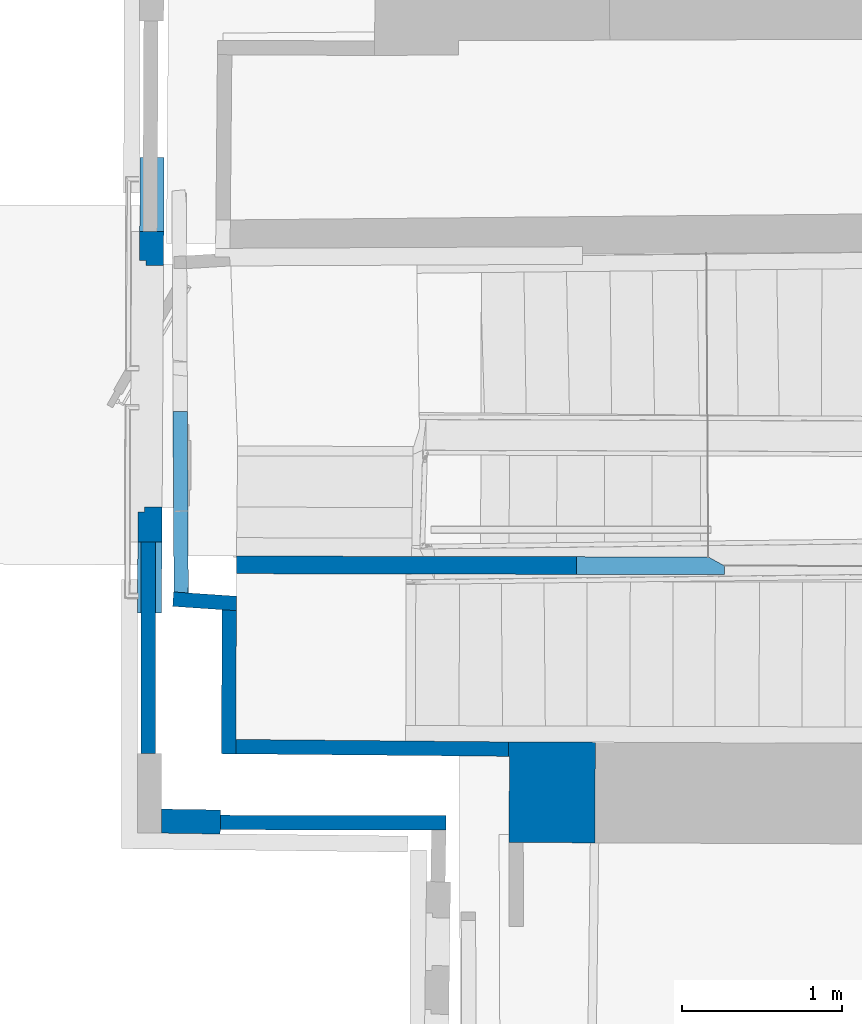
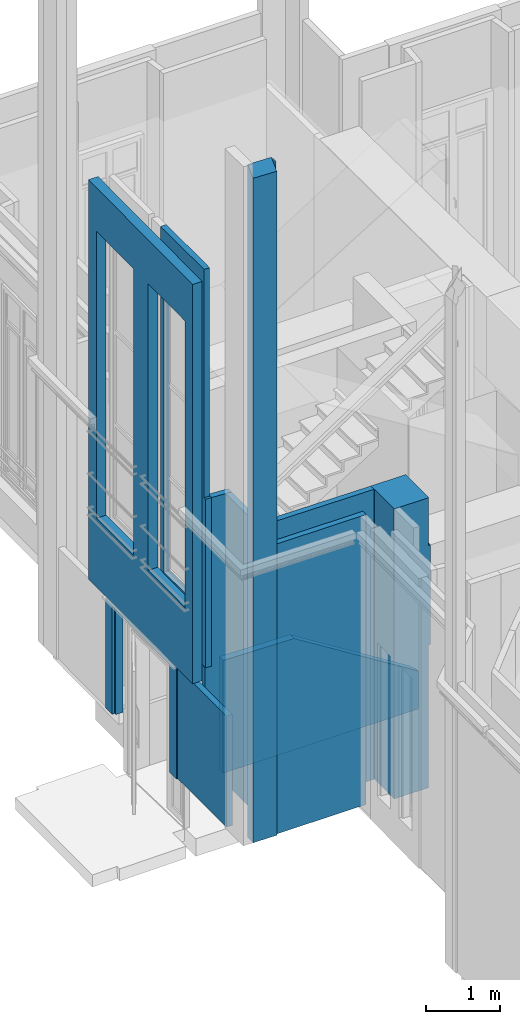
# One storey, part 9 of 97: 11 walls, 4 openings.
"""IFC2X3 building model written with IfcOpenShell, lengths in centimetres."""

import ifcopenshell
import ifcopenshell.guid

model = None  # the IFC model being written
_history = None  # IfcOwnerHistory: only IFC2X3 demands one
_inside = {}  # id of a spatial element -> (the spatial element, [elements in it])
_under = {}  # id of a project, library or spatial element -> (it, [spatial elements below it])
_declared = {}  # id of a project -> (the project, [libraries it declares])
_typed = {}  # id of a type object -> (the type object, [elements of that type])
_made_of = {}  # id of a material, layer set ... -> (it, [elements and type objects made of it])


def new_model(schema):
    """Start an empty IFC model of exactly this schema.

    Asked for "IFC4X3", IfcOpenShell would pick the latest addendum, in which some entities
    have other attributes; the version numbers below select the first issue.
    IFC2X3 requires an IfcOwnerHistory on every rooted entity: one is made here for all.
    """
    global model, _history
    if schema == "IFC4X3":
        model = ifcopenshell.file(schema_version=(4, 3, 0, 0))
    else:
        model = ifcopenshell.file(schema=schema)
    _inside.clear()
    _under.clear()
    _declared.clear()
    _typed.clear()
    _made_of.clear()
    _history = None
    if model.schema == "IFC2X3":
        org = make("IfcOrganization", Name="unknown")
        user = make(
            "IfcPersonAndOrganization",
            ThePerson=make("IfcPerson", FamilyName="unknown"),
            TheOrganization=org,
        )
        app = make(
            "IfcApplication",
            ApplicationDeveloper=org,
            Version="unknown",
            ApplicationFullName="unknown",
            ApplicationIdentifier="unknown",
        )
        _history = make(
            "IfcOwnerHistory",
            OwningUser=user,
            OwningApplication=app,
            ChangeAction="ADDED",
            CreationDate=0,
        )
    return model


def make(cls, **values):
    """One entity of the class cls with the attributes given. An attribute that is None is left unset."""
    return model.create_entity(
        cls, **{name: value for name, value in values.items() if value is not None}
    )


def entity(cls, *values):
    """Any entity or typed value of the class cls, its attributes in the order of the schema. None: left unset."""
    e = model.create_entity(cls)
    for i, value in enumerate(values):
        if value is not None:
            e[i] = value
    return e


def rooted(cls, **values):
    """An entity with a GlobalId (a new one), such as an element, a storey or a relation."""
    return make(cls, GlobalId=ifcopenshell.guid.new(), OwnerHistory=_history, **values)


def si_unit(unit_type, name, prefix=None):
    """IfcSIUnit, for example si_unit("LENGTHUNIT", "METRE", prefix="MILLI")."""
    return make("IfcSIUnit", UnitType=unit_type, Prefix=prefix, Name=name)


def converted_unit(unit_type, name, factor, base, dimensions=None, offset=None):
    """IfcConversionBasedUnit, such as the inch: factor (a typed value) times the base unit."""
    return make(
        "IfcConversionBasedUnit"
        if offset is None
        else "IfcConversionBasedUnitWithOffset",
        ConversionOffset=offset,
        Dimensions=None
        if dimensions is None
        else entity("IfcDimensionalExponents", *dimensions),
        UnitType=unit_type,
        Name=name,
        ConversionFactor=make(
            "IfcMeasureWithUnit", ValueComponent=factor, UnitComponent=base
        ),
    )


def assignment(units):
    """IfcUnitAssignment: the units of a project."""
    return None if units is None else make("IfcUnitAssignment", Units=units)


def point(xyz):
    """IfcCartesianPoint."""
    return None if xyz is None else make("IfcCartesianPoint", Coordinates=xyz)


def direction(xyz):
    """IfcDirection."""
    return None if xyz is None else make("IfcDirection", DirectionRatios=xyz)


def frame(location, z_axis=None, x_axis=None):
    """IfcAxis2Placement3D, a coordinate frame: its origin and axes. An axis left out is left unset."""
    return make(
        "IfcAxis2Placement3D",
        Location=point(location),
        Axis=direction(z_axis),
        RefDirection=direction(x_axis),
    )


def frame_2d(location, x_axis=None):
    """IfcAxis2Placement2D, a coordinate frame in the plane: its origin and x axis."""
    return make(
        "IfcAxis2Placement2D", Location=point(location), RefDirection=direction(x_axis)
    )


def origin():
    """The frame at (0, 0, 0) with its axes left unset."""
    return frame((0.0, 0.0, 0.0))


def origin_with_axes():
    """The frame at (0, 0, 0) with the z axis (0, 0, 1) and the x axis (1, 0, 0) written out."""
    return frame((0.0, 0.0, 0.0), z_axis=(0.0, 0.0, 1.0), x_axis=(1.0, 0.0, 0.0))


def origin_2d_with_axis():
    """The frame at (0, 0) in the plane with the x axis (1, 0) written out."""
    return frame_2d((0.0, 0.0), x_axis=(1.0, 0.0))


def place(relative_to, where):
    """IfcLocalPlacement: puts the frame where relative to a parent placement (None: the world)."""
    return make(
        "IfcLocalPlacement", PlacementRelTo=relative_to, RelativePlacement=where
    )


def context(
    kind, dimensions, precision=None, world=None, true_north=None, identifier=None
):
    """IfcGeometricRepresentationContext, for example the 3D "Model" context."""
    return make(
        "IfcGeometricRepresentationContext",
        ContextIdentifier=identifier,
        ContextType=kind,
        CoordinateSpaceDimension=dimensions,
        Precision=precision,
        WorldCoordinateSystem=world,
        TrueNorth=true_north,
    )


def subcontext(parent, identifier, kind, view, scale=None):
    """IfcGeometricRepresentationSubContext, for example "Body" below "Model"."""
    return make(
        "IfcGeometricRepresentationSubContext",
        ContextIdentifier=identifier,
        ContextType=kind,
        ParentContext=parent,
        TargetScale=scale,
        TargetView=view,
    )


def project(units=None, contexts=None):
    """IfcProject with its units and contexts."""
    return rooted(
        "IfcProject",
        Name="project",
        RepresentationContexts=contexts,
        UnitsInContext=assignment(units),
    )


def spatial(cls, under=None, at=None, **own):
    """A site, building, storey or space (cls), placed at a placement, below another one or the project."""
    s = rooted(cls, ObjectPlacement=at, **own)
    if under is not None:
        _under.setdefault(under.id(), (under, []))[1].append(s)
    return s


def polyline(points):
    """IfcPolyline through the points."""
    return make("IfcPolyline", Points=[point(p) for p in points])


def profile(cls, at=None, kind="AREA", **sizes):
    """A parametric profile (cls). Its sizes go by their IFC names, for example OverallWidth=200.0."""
    return make(cls, ProfileType=kind, Position=at, **sizes)


def rectangle(**sizes):
    """IfcRectangleProfileDef."""
    return profile("IfcRectangleProfileDef", **sizes)


def outline(outer, holes=None, kind="AREA"):
    """IfcArbitraryClosedProfileDef: a profile drawn as a closed curve; with holes, ...WithVoids."""
    if holes is None:
        return make("IfcArbitraryClosedProfileDef", ProfileType=kind, OuterCurve=outer)
    return make(
        "IfcArbitraryProfileDefWithVoids",
        ProfileType=kind,
        OuterCurve=outer,
        InnerCurves=holes,
    )


def extrude(swept, where, along, depth):
    """IfcExtrudedAreaSolid: the profile swept, set in the frame where, extruded along a direction by depth."""
    return make(
        "IfcExtrudedAreaSolid",
        SweptArea=swept,
        Position=where,
        ExtrudedDirection=direction(along),
        Depth=depth,
    )


def clip(a, b, op="DIFFERENCE"):
    """IfcBooleanClippingResult: the solid a cut by the half space b."""
    return make(
        "IfcBooleanClippingResult", Operator=op, FirstOperand=a, SecondOperand=b
    )


def bounded_halfspace(plane, agree, where, boundary):
    """IfcPolygonalBoundedHalfSpace: a half space limited to a polygon's prism."""
    return make(
        "IfcPolygonalBoundedHalfSpace",
        BaseSurface=make("IfcPlane", Position=plane),
        AgreementFlag=agree,
        Position=where,
        PolygonalBoundary=boundary,
    )


def faces_of(points, faces, orient=None, outer=None):
    """IfcFace entities. A face is a list of loops; a loop is a list of indices into points, from 0.

    orient and outer hold one flag for each loop. By default every Orientation is true, the
    first loop of a face is its IfcFaceOuterBound and the others are IfcFaceBound.
    """
    made = []
    for i, loops in enumerate(faces):
        bounds = []
        for j, loop in enumerate(loops):
            is_outer = j == 0 if outer is None else outer[i][j]
            bounds.append(
                make(
                    "IfcFaceOuterBound" if is_outer else "IfcFaceBound",
                    Bound=make("IfcPolyLoop", Polygon=[points[k] for k in loop]),
                    Orientation=True if orient is None else orient[i][j],
                )
            )
        made.append(make("IfcFace", Bounds=bounds))
    return made


def faceted_brep(points, faces, orient=None, outer=None, voids=None):
    """IfcFacetedBrep: a solid bounded by flat faces; with voids (closed shells), ...WithVoids."""
    shared = [point(p) for p in points]
    hull = make("IfcClosedShell", CfsFaces=faces_of(shared, faces, orient, outer))
    if voids is None:
        return make("IfcFacetedBrep", Outer=hull)
    return make(
        "IfcFacetedBrepWithVoids",
        Outer=hull,
        Voids=[
            make(cls, CfsFaces=faces_of(shared, fs, o, b)) for cls, fs, o, b in voids
        ],
    )


def shape(context_of_items, identifier, shape_type, items):
    """IfcShapeRepresentation: the items that make up one representation, for example the "Body"."""
    return make(
        "IfcShapeRepresentation",
        ContextOfItems=context_of_items,
        RepresentationIdentifier=identifier,
        RepresentationType=shape_type,
        Items=items,
    )


def material(Name=None, Category=None):
    """IfcMaterial."""
    return make("IfcMaterial", Name=Name, Category=Category)


def layer(
    of_material, thickness, ventilated=None, Name=None, Category=None, Priority=None
):
    """IfcMaterialLayer: one layer of a wall or slab, of a material (None: an air gap)."""
    return make(
        "IfcMaterialLayer",
        Material=of_material,
        LayerThickness=thickness,
        IsVentilated=ventilated,
        Name=Name,
        Category=Category,
        Priority=Priority,
    )


def layer_set(layers, Name=None):
    """IfcMaterialLayerSet."""
    return make("IfcMaterialLayerSet", MaterialLayers=layers, LayerSetName=Name)


def layer_usage(for_layer_set, set_direction, sense, offset, extent=None):
    """IfcMaterialLayerSetUsage: how a layer set lies in its element."""
    return make(
        "IfcMaterialLayerSetUsage",
        ForLayerSet=for_layer_set,
        LayerSetDirection=set_direction,
        DirectionSense=sense,
        OffsetFromReferenceLine=offset,
        ReferenceExtent=extent,
    )


def made_of(thing, what):
    """Note that an element or type object is made of a material, layer set ...; save() writes the relation."""
    if what is not None:
        _made_of.setdefault(what.id(), (what, []))[1].append(thing)
    return thing


def type_object(cls, material=None, **own):
    """A type object (cls), such as IfcWallType, which elements share."""
    return made_of(rooted(cls, **own), material)


def element(
    cls,
    number,
    at=None,
    inside=None,
    cuts=None,
    type_object=None,
    material=None,
    context=None,
    identifier="Body",
    shape_type=None,
    held_by="IfcProductDefinitionShape",
    body=None,
    shapes=None,
    **own,
):
    """One element of the class cls, such as IfcWall. Its Tag is "e" and its number.

    at: its placement. inside: the storey or other place that contains it. cuts: it is an
    opening in that element (IfcRelVoidsElement). A single representation is given by context,
    identifier, shape_type and body (its items); several are given by shapes. held_by: the class
    of the entity that holds the representations. save() writes the other relations.
    """
    e = rooted(cls, Tag="e%d" % number, ObjectPlacement=at, **own)
    if body is not None:
        shapes = [shape(context, identifier, shape_type, body)]
    if shapes is not None:
        e.Representation = make(held_by, Representations=shapes)
    if inside is not None:
        _inside.setdefault(inside.id(), (inside, []))[1].append(e)
    if cuts is not None:
        rooted(
            "IfcRelVoidsElement", RelatingBuildingElement=cuts, RelatedOpeningElement=e
        )
    if type_object is not None:
        _typed.setdefault(type_object.id(), (type_object, []))[1].append(e)
    return made_of(e, material)


def aggregate(whole, parts):
    """IfcRelAggregates: a whole, such as a stair, and the parts it consists of."""
    return rooted("IfcRelAggregates", RelatingObject=whole, RelatedObjects=parts)


def save(model, path):
    """Write the relations noted so far, then the file.

    IfcRelAggregates (storeys below a building ...), IfcRelContainedInSpatialStructure (elements
    in a storey), IfcRelDefinesByType, IfcRelAssociatesMaterial and IfcRelDeclares: one each for
    every whole, place, type object, material and project.
    """
    for whole, parts in _under.values():
        aggregate(whole, parts)
    for where, things in _inside.values():
        rooted(
            "IfcRelContainedInSpatialStructure",
            RelatedElements=things,
            RelatingStructure=where,
        )
    for kind, things in _typed.values():
        rooted("IfcRelDefinesByType", RelatedObjects=things, RelatingType=kind)
    for what, things in _made_of.values():
        rooted("IfcRelAssociatesMaterial", RelatedObjects=things, RelatingMaterial=what)
    for by, libraries in _declared.values():
        rooted("IfcRelDeclares", RelatingContext=by, RelatedDefinitions=libraries)
    model.write(path)


model = new_model("IFC2X3")

# Units and contexts
model_context = context("Model", 3, precision=0.0001, world=origin(), true_north=direction((0.225632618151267, 0.974212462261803, 0.0)))
body_context = subcontext(model_context, "Body", "Model", "MODEL_VIEW")
footprint_context = subcontext(model_context, "FootPrint", "Model", "MODEL_VIEW")
profile_context = subcontext(model_context, "Profile", "Model", "MODEL_VIEW")
ifc_project = project(units=[si_unit("LENGTHUNIT", "METRE", prefix="CENTI"), si_unit("AREAUNIT", "SQUARE_METRE", prefix="CENTI"), si_unit("VOLUMEUNIT", "CUBIC_METRE", prefix="CENTI"), converted_unit("PLANEANGLEUNIT", "DEGREE", entity("IfcRatioMeasure", 0.0174532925), si_unit("PLANEANGLEUNIT", "RADIAN"), dimensions=[0, 0, 0, 0, 0, 0, 0])], contexts=[model_context])

# Site, building, storey
site_placement = place(None, origin_with_axes())
site = spatial("IfcSite", under=ifc_project, at=site_placement, Name="Default Site", CompositionType="ELEMENT")
building_placement = place(site_placement, origin_with_axes())
building = spatial("IfcBuilding", under=site, at=building_placement, Name="Default Building", CompositionType="ELEMENT")
storey_placement = place(building_placement, origin_with_axes())
storey = spatial("IfcBuildingStorey", under=building, at=storey_placement, Name="Rez-de-chaussée", CompositionType="ELEMENT", Elevation=0.0)

# Walls
ifc_material = material(Name="<aucun>")
ifc_layer_1 = layer(ifc_material, 9.0)
ifc_layer_set_1 = layer_set([ifc_layer_1], Name="default")
ifc_layer_usage_1 = layer_usage(ifc_layer_set_1, "AXIS2", "POSITIVE", -4.5)
wall_type_1 = type_object("IfcWallType", Name="default 90", PredefinedType="NOTDEFINED", material=ifc_layer_set_1)
wall_1_placement = place(storey_placement, frame((-1178.55220643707, -336.633022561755, 0.0128503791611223), z_axis=(0.0, 0.0, 1.0), x_axis=(-0.999998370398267, 0.0018053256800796, 0.0)))
element("IfcWallStandardCase", 1, at=wall_1_placement, inside=storey, type_object=wall_type_1, material=ifc_layer_usage_1, Name="Enveloppe 372645", context=body_context, shape_type="SweptSolid", body=[
    extrude(outline(polyline([(131.729349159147, 4.50000000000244), (-8.99828884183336, 4.49999999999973), (-9.12939340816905, -4.50000000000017), (131.611219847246, -4.49999999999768), (131.729349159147, 4.50000000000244)])), frame((0.0, 0.0, 5.42101086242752e-18), z_axis=(0.0, 0.0, 1.0), x_axis=(1.0, 0.0, 0.0)), (0.0, 0.0, 1.0), 477.795358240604),
])
ifc_layer_usage_2 = layer_usage(ifc_layer_set_1, "AXIS2", "POSITIVE", -4.5)
wall_2_placement = place(storey_placement, frame((-1300.58186703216, -199.830365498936, 0.0128503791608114), z_axis=(0.0, 0.0, 1.0), x_axis=(-0.997724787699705, 0.0674184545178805, 0.0)))
element("IfcWallStandardCase", 2, at=wall_2_placement, inside=storey, type_object=wall_type_1, material=ifc_layer_usage_2, Name="Enveloppe 770679", context=body_context, shape_type="Clipping", body=[
    clip(clip(extrude(outline(polyline([(39.1673759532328, 4.50000000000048), (-0.591595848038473, 4.50000000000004), (0.00152030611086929, -4.50000000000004), (39.1673759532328, -4.49999999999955), (39.1673759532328, 4.50000000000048)])), origin_with_axes(), (0.0, 0.0, 1.0), 477.795358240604), bounded_halfspace(frame((29.9734256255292, -4.49999999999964, 199.987149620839), z_axis=(0.0, 0.0, -1.0), x_axis=(1.0, 1.08524300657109e-14, 0.0)), True, frame((29.9734256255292, -4.49999999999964, 199.987149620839), z_axis=(0.0, 0.0, 1.0), x_axis=(1.0, 0.0, 0.0)), polyline([(-0.653721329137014, 8.99999999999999), (0.0, 0.0), (9.02371052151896, 1.33226762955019e-13), (8.36998919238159, 9.00000000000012), (-0.653721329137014, 8.99999999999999)]))), bounded_halfspace(frame((39.1673759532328, 4.50000000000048, 199.987149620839), z_axis=(0.0, 0.0, -1.0), x_axis=(-1.0, -2.1690982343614e-14, 0.0)), True, frame((39.1673759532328, 4.50000000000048, 199.987149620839), z_axis=(0.0, 0.0, 1.0), x_axis=(1.0, 0.0, 0.0)), polyline([(-0.823961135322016, 0.0), (-0.170239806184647, -8.99999999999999), (0.0, -9.00000000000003), (0.0, 0.0), (-0.823961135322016, 0.0)]))),
])
ifc_layer_usage_3 = layer_usage(ifc_layer_set_1, "AXIS2", "POSITIVE", -4.5)
wall_3_placement = place(storey_placement, frame((-1304.92849517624, -284.630069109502, 0.0128503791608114), z_axis=(0.0, 0.0, 1.0), x_axis=(0.00166299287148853, 0.999998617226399, 0.0)))
element("IfcWallStandardCase", 3, at=wall_3_placement, inside=storey, type_object=wall_type_1, material=ifc_layer_usage_3, Name="Enveloppe 770892", context=body_context, shape_type="SweptSolid", body=[
    extrude(outline(polyline([(-8.93553652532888, 4.50000000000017), (-9.00271175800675, -4.50000000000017), (80.2776520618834, -4.49999999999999), (80.8707682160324, 4.49999999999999), (-8.93553652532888, 4.50000000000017)])), frame((0.0, 0.0, -2.71050543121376e-18), z_axis=(0.0, 0.0, 1.0), x_axis=(1.0, 0.0, 0.0)), (0.0, 0.0, 1.0), 477.795358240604),
])
ifc_layer_usage_4 = layer_usage(ifc_layer_set_1, "AXIS2", "POSITIVE", -4.5)
wall_4_placement = place(storey_placement, frame((-1121.21960093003, -290.77584489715, 0.0128503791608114), z_axis=(0.0, 0.0, 1.0), x_axis=(-0.9999583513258, 0.0091266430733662, 0.0)))
element("IfcWallStandardCase", 4, at=wall_4_placement, inside=storey, type_object=wall_type_1, material=ifc_layer_usage_4, Name="Enveloppe 770964", context=body_context, shape_type="SweptSolid", body=[
    extrude(outline(polyline([(179.19026505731, 4.50000000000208), (9.4535641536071, 4.50000000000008), (9.4535641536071, -4.4999999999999), (179.257440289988, -4.49999999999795), (179.19026505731, 4.50000000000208)])), origin_with_axes(), (0.0, 0.0, 1.0), 477.795358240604),
])

# Wall, opening
ifc_layer_usage_5 = layer_usage(ifc_layer_set_1, "AXIS2", "POSITIVE", -4.5)
wall_5_placement = place(storey_placement, frame((-1334.68678230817, -192.722181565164, 200.0), z_axis=(0.0, 0.0, 1.0), x_axis=(-0.00503871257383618, 0.999987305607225, 0.0)))
wall_5 = element("IfcWallStandardCase", 5, at=wall_5_placement, inside=storey, type_object=wall_type_1, material=ifc_layer_usage_5, Name="Enveloppe 603926", context=body_context, shape_type="Clipping", body=[
    clip(clip(extrude(outline(polyline([(112.431436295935, 4.49999999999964), (-8.99033163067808, 4.49999999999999), (-9.64405295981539, -4.50000000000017), (112.431436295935, -4.50000000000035), (112.431436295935, 4.49999999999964)])), origin_with_axes(), (0.0, 0.0, 1.0), 653.910374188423), bounded_halfspace(frame((-5.59764722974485, -4.49999999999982, 277.808208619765), z_axis=(0.0, 0.0, -1.0), x_axis=(0.100311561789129, 0.994956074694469, 0.0)), True, frame((-5.59764722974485, -4.49999999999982, 277.808208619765), z_axis=(0.0, 0.0, 1.0), x_axis=(1.0, 0.0, 0.0)), polyline([(-4.04640573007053, 0.0), (0.0, 1.77635683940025e-13), (0.907380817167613, 8.99999999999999), (-3.39268440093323, 9.00000000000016), (-4.04640573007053, 0.0)]))), bounded_halfspace(frame((-5.50662644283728, -3.5971959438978, 277.808208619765), z_axis=(0.0, 0.0, -1.0), x_axis=(-0.100311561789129, -0.994956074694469, 0.0)), True, frame((-5.50662644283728, -3.5971959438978, 277.808208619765), z_axis=(0.0, 0.0, 1.0), x_axis=(1.0, 0.0, 0.0)), polyline([(-0.0910207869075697, -0.902804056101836), (8.95460467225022, -0.902804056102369), (0.0, 1.77635683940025e-13), (-0.0910207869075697, -0.902804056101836)]))),
])
opening_1_placement = place(wall_5_placement, frame((3.87075384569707, -2.27373675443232e-13, 90.0000000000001), z_axis=(0.0, 0.0, 1.0), x_axis=(-1.0, 1.97758476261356e-16, 0.0)))
cartesian_point_1 = entity("IfcCartesianPoint", [-4.44089209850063e-14, 0.0, 475.0])
cartesian_point_2 = entity("IfcCartesianPoint", [-99.0415985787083, -4.49999999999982])
element("IfcOpeningElement", 6, at=opening_1_placement, cuts=wall_5, Name="4294966496_11", ObjectType="Opening", shapes=[
    shape(body_context, "Body", "SweptSolid", [extrude(outline(polyline([(4.44089209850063e-14, 475.0), (0.0, 4.44089209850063e-14), (99.0415985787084, 4.44089209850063e-14), (99.0415985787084, 475.0), (4.44089209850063e-14, 475.0)])), frame((0.0, -14.5, 0.0), z_axis=(0.0, 1.0, 0.0), x_axis=(-1.0, 0.0, 0.0)), (0.0, 0.0, 1.0), 29.0000000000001)]),
    shape(profile_context, "Profile", "GeometricCurveSet", [entity("IfcGeometricCurveSet", [entity("IfcPolyline", [cartesian_point_1, entity("IfcCartesianPoint", [0.0, 0.0, 4.44089209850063e-14]), entity("IfcCartesianPoint", [-99.0415985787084, 0.0, 4.44089209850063e-14]), entity("IfcCartesianPoint", [-99.0415985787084, 0.0, 475.0]), cartesian_point_1])])]),
    shape(footprint_context, "FootPrint", "GeometricCurveSet", [entity("IfcGeometricCurveSet", [entity("IfcPolyline", [cartesian_point_2, entity("IfcCartesianPoint", [2.22044604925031e-14, -4.49999999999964]), entity("IfcCartesianPoint", [6.66133814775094e-14, 4.50000000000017]), entity("IfcCartesianPoint", [-99.0415985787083, 4.50000000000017]), cartesian_point_2])])]),
])

ifc_layer_2 = layer(ifc_material, 15.0)
ifc_layer_set_2 = layer_set([ifc_layer_2], Name="default")
ifc_layer_usage_6 = layer_usage(ifc_layer_set_2, "AXIS2", "POSITIVE", -7.5)
wall_type_2 = type_object("IfcWallType", Name="default 150", PredefinedType="NOTDEFINED", material=ifc_layer_set_2)
wall_6_placement = place(storey_placement, frame((-1354.18013515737, -161.655026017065, 0.0128503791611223), z_axis=(0.0, 0.0, 1.0), x_axis=(0.0060034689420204, 0.999981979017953, 0.0)))
wall_6 = element("IfcWallStandardCase", 7, at=wall_6_placement, inside=storey, type_object=wall_type_2, material=ifc_layer_usage_6, Name="Enveloppe 374302", context=body_context, shape_type="SweptSolid", body=[
    extrude(rectangle(XDim=193.658248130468, YDim=15.0, at=origin_2d_with_axis()), frame((96.8291240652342, -1.77635683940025e-13, -5.42101086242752e-18), z_axis=(0.0, 0.0, 1.0), x_axis=(1.0, -9.94863913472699e-16, 0.0)), (0.0, 0.0, 1.0), 182.782507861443),
])
opening_2_placement = place(wall_6_placement, frame((18.890659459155, -2.27373675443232e-13, -2.21992563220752e-14), z_axis=(0.0, 0.0, 1.0), x_axis=(1.0, -9.9399655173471e-16, 0.0)))
cartesian_point_3 = entity("IfcCartesianPoint", [2.22044604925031e-14, 1.77635683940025e-13, 177.890932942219])
cartesian_point_4 = entity("IfcCartesianPoint", [156.554792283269, 7.50000000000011])
element("IfcOpeningElement", 8, at=opening_2_placement, cuts=wall_6, Name="Baie 383891", ObjectType="Opening", shapes=[
    shape(body_context, "Body", "Brep", [faceted_brep([(5.02628030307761e-06, 27.5000083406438, 177.890932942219), (156.554792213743, 27.5000083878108, 177.890932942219), (156.554792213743, 27.5000083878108, -4.62896396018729e-10), (5.02628030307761e-06, 27.5000083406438, -4.62896396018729e-10), (3.0000013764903, -27.4999669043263, -4.62896396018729e-10), (153.554792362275, -27.4999668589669, -4.62896396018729e-10), (153.554792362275, -27.4999668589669, 177.890932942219), (3.0000013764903, -27.4999669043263, 177.890932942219), (3.00000136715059, 3.49996614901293, 177.890932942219), (3.00000136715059, 3.49996614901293, -4.62896396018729e-10), (3.00000378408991, 3.49996614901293, -4.62896396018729e-10), (3.00000378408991, 3.49996614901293, 177.890932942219), (1.81670727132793e-07, 3.49996614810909, 177.890932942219), (1.81670727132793e-07, 3.49996614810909, -4.62896396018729e-10), (1.81670722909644e-07, 3.49998016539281, -4.62896396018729e-10), (1.81670722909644e-07, 3.49998016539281, 177.890932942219), (1.74439956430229e-07, 27.5000083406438, 177.890932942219), (1.74439956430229e-07, 27.5000083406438, -4.62896396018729e-10), (153.554792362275, -27.5000084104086, -4.62896396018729e-10), (156.554792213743, 27.5000341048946, -4.62896396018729e-10), (156.554791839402, 3.50000595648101, -4.62896396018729e-10), (153.554791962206, 3.50001999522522, -4.62896396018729e-10), (153.554792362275, -27.5000084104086, 177.890932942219), (153.554792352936, 3.50001999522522, -4.6289639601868e-10), (153.554792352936, 3.50001999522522, 177.890932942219), (153.554791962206, 3.50001999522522, 177.890932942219), (156.554791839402, 3.50001999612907, -4.62896396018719e-10), (156.554791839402, 3.50001999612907, 177.890932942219), (156.554791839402, 3.50000595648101, 177.890932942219), (156.554791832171, 27.5000341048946, -4.62896396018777e-10), (156.554791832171, 27.5000341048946, 177.890932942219), (156.554792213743, 27.5000341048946, 177.890932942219)], [[[0, 1, 2, 3]], [[4, 5, 6, 7]], [[4, 7, 8, 9]], [[10, 11, 12, 13]], [[14, 15, 16, 17]], [[18, 4, 10, 14, 3, 19, 20, 21]], [[22, 18, 23, 24]], [[25, 21, 26, 27]], [[28, 20, 29, 30]], [[25, 28, 31, 0, 15, 11, 7, 22]]])]),
    shape(profile_context, "Profile", "GeometricCurveSet", [entity("IfcGeometricCurveSet", [entity("IfcPolyline", [cartesian_point_3, entity("IfcCartesianPoint", [0.0, 1.77635683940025e-13, 0.0]), entity("IfcCartesianPoint", [156.554792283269, 1.77635683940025e-13, 0.0]), entity("IfcCartesianPoint", [156.554792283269, 1.77635683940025e-13, 177.890932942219]), cartesian_point_3])])]),
    shape(footprint_context, "FootPrint", "GeometricCurveSet", [entity("IfcGeometricCurveSet", [entity("IfcPolyline", [cartesian_point_4, entity("IfcCartesianPoint", [2.22044604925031e-14, 7.50000000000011]), entity("IfcCartesianPoint", [2.22044604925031e-14, -7.49999999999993]), entity("IfcCartesianPoint", [156.554792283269, -7.49999999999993]), cartesian_point_4])])]),
])

# Wall
ifc_layer_usage_7 = layer_usage(ifc_layer_set_2, "AXIS2", "POSITIVE", -7.5)
wall_7_placement = place(storey_placement, frame((-1310.21802876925, -336.110835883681, 0.0128503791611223), z_axis=(0.0, 0.0, 1.0), x_axis=(-0.999888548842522, 0.0149294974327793, 0.0)))
solid = clip(clip(clip(clip(clip(clip(clip(clip(extrude(outline(polyline([(36.570151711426, 7.49999999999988), (5.32907051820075e-13, 7.50000000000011), (1.77635683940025e-13, 4.7848982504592), (-0.118115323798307, 4.78313465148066), (3.5527136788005e-13, -4.21587696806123), (1.77635683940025e-13, -7.49999999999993), (36.7807848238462, -7.5000000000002), (36.570151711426, 7.49999999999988)])), frame((0.0, 0.0, -2.71050543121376e-18), z_axis=(0.0, 0.0, 1.0), x_axis=(1.0, 0.0, 0.0)), (0.0, 0.0, 1.0), 1108.83404044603), bounded_halfspace(frame((3.5527136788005e-13, -4.21587696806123, 477.795358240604), z_axis=(0.0, 0.0, 1.0), x_axis=(-0.011110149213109, 0.999938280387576, 0.0)), True, frame((3.5527136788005e-13, -4.21587696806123, 477.795358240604), z_axis=(0.0, 0.0, 1.0), x_axis=(1.0, 0.0, 0.0)), polyline([(-0.0999915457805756, 8.99946278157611), (0.0, 9.00077521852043), (1.77635683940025e-13, 0.0), (-0.0999915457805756, 8.99946278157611)]))), bounded_halfspace(frame((-0.0375827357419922, -1.35253495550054, 477.795358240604), z_axis=(0.0, 0.0, 1.0), x_axis=(-0.0131243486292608, 0.999913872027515, 0.0)), True, frame((-0.0375827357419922, -1.35253495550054, 477.795358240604), z_axis=(0.0, 0.0, 1.0), x_axis=(1.0, 0.0, 0.0)), polyline([(-0.0805409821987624, 6.13623179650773), (-0.0624088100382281, 6.13612076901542), (1.77635683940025e-13, 0.0), (-0.0805409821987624, 6.13623179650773)]))), bounded_halfspace(frame((-0.0375827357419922, -1.35253495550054, 477.795358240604), z_axis=(0.0, 0.0, 1.0), x_axis=(-0.0101702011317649, 0.999948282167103, 0.0)), True, frame((-0.0375827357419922, -1.35253495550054, 477.795358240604), z_axis=(0.0, 0.0, 1.0), x_axis=(1.0, 0.0, 0.0)), polyline([(-0.0624088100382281, 6.13612076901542), (0.0375827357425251, -2.86334201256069), (-0.0624088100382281, 6.13612076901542)]))), bounded_halfspace(frame((36.7807848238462, -7.5000000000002, 1108.83404044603), z_axis=(0.0125716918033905, -0.681465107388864, -0.731742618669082), x_axis=(-0.999901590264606, -0.0131241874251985, -0.00495635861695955)), True, frame((36.7807848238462, -7.5000000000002, 1108.83404044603), z_axis=(0.0, 0.0, 1.0), x_axis=(1.0, 0.0, 0.0)), polyline([(-16.9411886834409, 12.5453024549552), (-16.8328178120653, 2.22044604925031e-13), (1.77635683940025e-13, 4.44089209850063e-14), (-0.179253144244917, 12.7653108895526), (-16.9411886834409, 12.5453024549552)]))), bounded_halfspace(frame((25.0411979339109, 5.11357597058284, 1096.88544247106), z_axis=(0.0125716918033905, -0.681465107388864, -0.731742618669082), x_axis=(-0.999852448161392, -2.1163626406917e-15, -0.0171779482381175)), True, frame((25.0411979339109, 5.11357597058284, 1096.88544247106), z_axis=(0.0, 0.0, 1.0), x_axis=(1.0, 0.0, 0.0)), polyline([(-5.22280636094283, 2.38642402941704), (-5.20160179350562, -0.0682735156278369), (1.77635683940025e-13, 0.0), (-0.0594851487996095, 2.38642402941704), (-5.22280636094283, 2.38642402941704)]))), bounded_halfspace(frame((36.6015316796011, 5.26531088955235, 1096.94274526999), z_axis=(0.0125716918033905, -0.681465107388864, -0.731742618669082), x_axis=(0.999901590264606, 0.0131241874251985, 0.00495635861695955)), True, frame((36.6015316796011, 5.26531088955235, 1096.94274526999), z_axis=(0.0, 0.0, 1.0), x_axis=(1.0, 0.0, 0.0)), polyline([(-11.6198188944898, 2.23468911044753), (-11.56033374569, -0.151734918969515), (1.77635683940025e-13, 0.0), (-0.0313799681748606, 2.23468911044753), (-11.6198188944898, 2.23468911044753)]))), bounded_halfspace(frame((14.9882808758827, 4.98162661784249, 1096.83561170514), z_axis=(0.0125716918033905, -0.681465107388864, -0.731742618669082), x_axis=(0.999901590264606, 0.0131241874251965, 0.00495635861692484)), True, frame((14.9882808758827, 4.98162661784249, 1096.83561170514), z_axis=(0.0, 0.0, 1.0), x_axis=(1.0, 0.0, 0.0)), polyline([(-10.012780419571, 2.51837338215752), (-9.94675193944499, -0.130555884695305), (1.77635683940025e-13, 4.44089209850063e-14), (-0.0330548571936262, 2.51837338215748), (-10.012780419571, 2.51837338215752)]))), bounded_halfspace(frame((5.04152893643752, 4.85107073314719, 1096.78630718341), z_axis=(0.0125716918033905, -0.681465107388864, -0.731742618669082), x_axis=(-0.0182342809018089, 0.731522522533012, -0.68157340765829)), True, frame((5.04152893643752, 4.85107073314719, 1096.78630718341), z_axis=(0.0, 0.0, 1.0), x_axis=(1.0, 0.0, 0.0)), polyline([(-5.04152893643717, -0.0661724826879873), (1.77635683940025e-13, 0.0), (-0.0660284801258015, 2.64892926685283), (-5.04152893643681, 2.64892926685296), (-5.04152893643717, -0.0661724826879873)])))
element("IfcWallStandardCase", 9, at=wall_7_placement, inside=storey, type_object=wall_type_2, material=ifc_layer_usage_7, Name="Enveloppe 375014", context=body_context, shape_type="Clipping", body=[
    clip(clip(clip(clip(clip(solid, bounded_halfspace(frame((19.9479670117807, -7.50000000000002, 1108.54484450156), z_axis=(0.0125716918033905, -0.681465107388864, -0.731742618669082), x_axis=(-0.999901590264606, -0.0131241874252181, -0.00495635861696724)), True, frame((19.9479670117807, -7.50000000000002, 1108.54484450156), z_axis=(0.0, 0.0, 1.0), x_axis=(1.0, 0.0, 0.0)), polyline([(-19.9479670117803, 8.88178419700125e-14), (1.77635683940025e-13, 4.44089209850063e-14), (-0.108370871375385, 12.545302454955), (-19.9479670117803, 12.2848982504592), (-19.9479670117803, 8.88178419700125e-14)]))), bounded_halfspace(frame((19.8395961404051, 5.045302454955, 1096.85965892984), z_axis=(0.0125716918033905, -0.681465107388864, -0.731742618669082), x_axis=(0.999901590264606, 0.0131241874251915, 0.00495635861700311)), True, frame((19.8395961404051, 5.045302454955, 1096.85965892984), z_axis=(0.0, 0.0, 1.0), x_axis=(1.0, 0.0, 0.0)), polyline([(-4.88437012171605, 2.45469754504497), (-4.85131526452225, -0.0636758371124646), (1.77635683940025e-13, 0.0), (-0.0212045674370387, 2.45469754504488), (-4.88437012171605, 2.45469754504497)]))), bounded_halfspace(frame((3.5527136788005e-13, -4.21587696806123, 1105.14365549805), z_axis=(0.0125716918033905, -0.681465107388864, -0.731742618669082), x_axis=(-0.999901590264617, -0.0131241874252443, -0.00495635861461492)), True, frame((3.5527136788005e-13, -4.21587696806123, 1105.14365549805), z_axis=(0.0, 0.0, 1.0), x_axis=(1.0, 0.0, 0.0)), polyline([(-0.0999915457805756, 8.99946278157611), (1.77635683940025e-13, 0.0), (0.0, 9.00077521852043), (-0.0999915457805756, 8.99946278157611)]))), bounded_halfspace(frame((-0.0999915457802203, 4.78358581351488, 853.897523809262), z_axis=(0.0, 0.0, -1.0), x_axis=(-0.999981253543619, 0.0061231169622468, 0.0)), True, frame((-0.0999915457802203, 4.78358581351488, 853.897523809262), z_axis=(0.0, 0.0, 1.0), x_axis=(1.0, 0.0, 0.0)), polyline([(-0.0181321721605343, 0.000111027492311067), (0.0624088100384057, -6.13612076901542), (0.0, 0.0), (-0.0181321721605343, 0.000111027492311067)]))), bounded_halfspace(frame((3.5527136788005e-13, -4.21587696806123, 1105.14365549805), z_axis=(0.0125716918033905, -0.681465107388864, -0.731742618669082), x_axis=(-0.00812987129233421, 0.731706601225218, -0.681571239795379)), True, frame((3.5527136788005e-13, -4.21587696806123, 1105.14365549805), z_axis=(0.0, 0.0, 1.0), x_axis=(1.0, 0.0, 0.0)), polyline([(-0.0999915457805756, 8.99946278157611), (1.77635683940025e-13, 0.0), (-0.0999915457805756, 8.99946278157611)]))),
])

# Wall, openings
ifc_layer_usage_8 = layer_usage(ifc_layer_set_2, "AXIS2", "POSITIVE", -7.5)
wall_8_placement = place(storey_placement, frame((-1354.44502113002, -205.77638347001, 184.0), z_axis=(0.0, 0.0, 1.0), x_axis=(0.0060034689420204, 0.999981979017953, 0.0)))
wall_8 = element("IfcWallStandardCase", 10, at=wall_8_placement, inside=storey, type_object=wall_type_2, material=ifc_layer_usage_8, Name="Enveloppe 401431", context=body_context, shape_type="SweptSolid", body=[
    extrude(outline(polyline([(4.44089209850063e-14, 7.49999999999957), (4.44089209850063e-14, 5.12517480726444), (-0.099998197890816, 5.12457446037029), (-0.0459669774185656, -3.87526334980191), (4.79780659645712e-09, -3.87498738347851), (4.44089209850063e-14, -7.50000000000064), (284.056848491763, -7.50000000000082), (284.056848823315, -3.36075015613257), (284.156848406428, -3.36056428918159), (284.145090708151, 5.63942803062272), (284.056850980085, 5.63889827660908), (284.056848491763, 7.4999999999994), (4.44089209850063e-14, 7.49999999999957)])), origin_with_axes(), (0.0, 0.0, 1.0), 657.910374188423),
])
opening_3_placement = place(wall_8_placement, frame((20.8049794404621, -4.54747350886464e-13, 113.171562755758), z_axis=(0.0, 0.0, 1.0), x_axis=(-1.0, 8.39606162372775e-16, 0.0)))
cartesian_point_5 = entity("IfcCartesianPoint", [-4.44089209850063e-14, 0.0, 472.101592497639])
cartesian_point_6 = entity("IfcCartesianPoint", [-100.473640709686, -7.50000000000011])
element("IfcOpeningElement", 11, at=opening_3_placement, cuts=wall_8, Name="Baie 427150", ObjectType="Opening", shapes=[
    shape(body_context, "Body", "SweptSolid", [extrude(outline(polyline([(4.44089209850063e-14, 472.101592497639), (0.0, 0.0), (100.473640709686, 0.0), (100.473640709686, 472.101592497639), (4.44089209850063e-14, 472.101592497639)])), frame((0.0, -17.5, 0.0), z_axis=(0.0, 1.0, 0.0), x_axis=(-1.0, 0.0, 0.0)), (0.0, 0.0, 1.0), 35.0)]),
    shape(profile_context, "Profile", "GeometricCurveSet", [entity("IfcGeometricCurveSet", [entity("IfcPolyline", [cartesian_point_5, entity("IfcCartesianPoint", [0.0, 0.0, 0.0]), entity("IfcCartesianPoint", [-100.473640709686, -1.77635683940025e-13, 0.0]), entity("IfcCartesianPoint", [-100.473640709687, -1.77635683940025e-13, 472.101592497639]), cartesian_point_5])])]),
    shape(footprint_context, "FootPrint", "GeometricCurveSet", [entity("IfcGeometricCurveSet", [entity("IfcPolyline", [cartesian_point_6, entity("IfcCartesianPoint", [0.0, -7.50000000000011]), entity("IfcCartesianPoint", [-2.22044604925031e-14, 7.49999999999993]), entity("IfcCartesianPoint", [-100.473640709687, 7.49999999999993]), cartesian_point_6])])]),
])
opening_4_placement = place(wall_8_placement, frame((161.57076455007, -4.54747350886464e-13, 113.694651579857), z_axis=(0.0, 0.0, 1.0), x_axis=(-1.0, 8.39606162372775e-16, 0.0)))
cartesian_point_7 = entity("IfcCartesianPoint", [-3.33066907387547e-14, 0.0, 472.306388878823])
cartesian_point_8 = entity("IfcCartesianPoint", [-100.30758530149, -7.49999999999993])
element("IfcOpeningElement", 12, at=opening_4_placement, cuts=wall_8, Name="Baie 427149", ObjectType="Opening", shapes=[
    shape(body_context, "Body", "SweptSolid", [extrude(outline(polyline([(2.22044604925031e-14, 472.306388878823), (0.0, 0.0), (100.30758530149, 0.0), (100.30758530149, 472.306388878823), (2.22044604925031e-14, 472.306388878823)])), frame((0.0, -17.5, 0.0), z_axis=(0.0, 1.0, 0.0), x_axis=(-1.0, 0.0, 0.0)), (0.0, 0.0, 1.0), 35.0)]),
    shape(profile_context, "Profile", "GeometricCurveSet", [entity("IfcGeometricCurveSet", [entity("IfcPolyline", [cartesian_point_7, entity("IfcCartesianPoint", [-1.11022302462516e-14, 0.0, 0.0]), entity("IfcCartesianPoint", [-100.30758530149, 1.77635683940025e-13, 0.0]), entity("IfcCartesianPoint", [-100.30758530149, 1.77635683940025e-13, 472.306388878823]), cartesian_point_7])])]),
    shape(footprint_context, "FootPrint", "GeometricCurveSet", [entity("IfcGeometricCurveSet", [entity("IfcPolyline", [cartesian_point_8, entity("IfcCartesianPoint", [0.0, -7.49999999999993]), entity("IfcCartesianPoint", [-2.22044604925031e-14, 7.50000000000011]), entity("IfcCartesianPoint", [-100.30758530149, 7.50000000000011]), cartesian_point_8])])]),
])

# Walls
ifc_layer_usage_9 = layer_usage(ifc_layer_set_1, "AXIS2", "POSITIVE", -4.5)
wall_type_3 = type_object("IfcWallType", Name="default 90", PredefinedType="NOTDEFINED", material=ifc_layer_set_1)
wall_9_placement = place(storey_placement, frame((-1355.07140144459, -293.278150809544, 0.0128503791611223), z_axis=(0.0, 0.0, 1.0), x_axis=(1.48272692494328e-05, 0.999999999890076, 0.0)))
element("IfcWallStandardCase", 13, at=wall_9_placement, inside=storey, type_object=wall_type_3, material=ifc_layer_usage_9, Name="Enveloppe 372315", context=body_context, shape_type="SweptSolid", body=[
    extrude(outline(polyline([(2.05169214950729e-11, 4.49999861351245), (-0.00786546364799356, -4.50000150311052), (131.601514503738, -4.49999999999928), (131.655413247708, 4.50000000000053), (2.05169214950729e-11, 4.49999861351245)])), frame((0.0, 0.0, -2.71050543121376e-18), z_axis=(0.0, 0.0, 1.0), x_axis=(1.0, 0.0, 0.0)), (0.0, 0.0, 1.0), 182.782507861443),
])
ifc_layer_3 = layer(ifc_material, 11.0)
ifc_layer_set_3 = layer_set([ifc_layer_3], Name="default")
ifc_layer_usage_10 = layer_usage(ifc_layer_set_3, "AXIS2", "POSITIVE", -5.5)
wall_type_4 = type_object("IfcWallType", Name="default 110", PredefinedType="NOTDEFINED", material=ifc_layer_set_3)
wall_10_placement = place(storey_placement, frame((-995.892992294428, -176.421256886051, 0.0128503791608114), z_axis=(0.0, 0.0, 1.0), x_axis=(-0.999997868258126, 0.00206481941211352, 0.0)))
element("IfcWallStandardCase", 14, at=wall_10_placement, inside=storey, type_object=wall_type_4, material=ifc_layer_usage_10, Name="Enveloppe 2397", context=body_context, shape_type="Clipping", body=[
    clip(clip(extrude(outline(polyline([(304.306365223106, 5.49999999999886), (0.0, 5.49999999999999), (1.77635683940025e-13, -0.0104159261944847), (10.0827521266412, -5.5000000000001), (304.306365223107, -5.50000000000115), (304.306365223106, 5.49999999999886)])), frame((0.0, 0.0, -2.71050543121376e-18), z_axis=(0.0, 0.0, 1.0), x_axis=(1.0, 0.0, 0.0)), (0.0, 0.0, 1.0), 185.879117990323), bounded_halfspace(frame((304.306365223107, -5.50000000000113, 185.879117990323), z_axis=(0.0198350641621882, -7.0513798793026e-17, -0.999803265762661), x_axis=(3.22927448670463e-14, -1.0, 0.0)), True, frame((304.306365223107, -5.50000000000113, 185.879117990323), z_axis=(0.0, 0.0, 1.0), x_axis=(1.0, 0.0, 0.0)), polyline([(-110.440027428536, 4.44089209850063e-13), (1.77635683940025e-13, 0.0), (-1.77635683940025e-13, 11.0), (-110.440027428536, 11.0000000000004), (-110.440027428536, 4.44089209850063e-13)]))), bounded_halfspace(frame((193.866337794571, -5.5000000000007, 183.688101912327), z_axis=(0.530430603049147, -1.93616823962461e-15, -0.847728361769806), x_axis=(0.769700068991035, -0.419065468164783, 0.481607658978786)), True, frame((193.866337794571, -5.5000000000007, 183.688101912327), z_axis=(0.0, 0.0, 1.0), x_axis=(1.0, 0.0, 0.0)), polyline([(-193.866337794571, 5.48958407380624), (-183.783585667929, 6.21724893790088e-13), (1.77635683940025e-13, 2.22044604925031e-14), (-1.77635683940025e-13, 11.0), (-193.866337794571, 11.0000000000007), (-193.866337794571, 5.48958407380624)]))),
])
ifc_layer_4 = layer(ifc_material, 62.7069274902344)
ifc_layer_set_4 = layer_set([ifc_layer_4], Name="default")
ifc_layer_usage_11 = layer_usage(ifc_layer_set_4, "AXIS2", "POSITIVE", -31.353)
wall_type_5 = type_object("IfcWallType", Name="default 627.069274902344", PredefinedType="NOTDEFINED", material=ifc_layer_set_4)
wall_11_placement = place(storey_placement, frame((-1076.56628517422, -317.753583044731, 0.0128503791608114), z_axis=(0.0, 0.0, 1.0), x_axis=(-0.999992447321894, 0.00388655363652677, 0.0)))
element("IfcWallStandardCase", 15, at=wall_11_placement, inside=storey, type_object=wall_type_5, material=ifc_layer_usage_11, Name="Enveloppe 3039", context=body_context, shape_type="Clipping", body=[
    clip(clip(extrude(outline(polyline([(54.2348441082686, -22.3535870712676), (53.4543217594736, -22.3494969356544), (53.7316105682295, 31.3534635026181), (-2.9132736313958, 31.3534635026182), (-2.91327363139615, -31.3534635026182), (49.1000045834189, -31.3534635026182), (49.0999009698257, -31.3268041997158), (54.1876824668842, -31.3534635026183), (54.2348441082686, -22.3535870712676)])), frame((0.0, 0.0, -2.71050543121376e-18), z_axis=(0.0, 0.0, 1.0), x_axis=(1.0, 0.0, 0.0)), (0.0, 0.0, 1.0), 477.795358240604), bounded_halfspace(frame((-2.9132736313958, 31.3534635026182, 234.987149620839), z_axis=(0.0, 0.0, 1.0), x_axis=(1.0, 4.98299318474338e-16, 0.0)), True, frame((-2.9132736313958, 31.3534635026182, 234.987149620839), z_axis=(0.0, 0.0, 1.0), x_axis=(1.0, 0.0, 0.0)), polyline([(-3.5527136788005e-13, -62.7069270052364), (0.0, 0.0), (2.91327363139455, 0.0), (2.91327363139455, -62.7069270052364), (-3.5527136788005e-13, -62.7069270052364)]))), bounded_halfspace(frame((-2.91327363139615, -31.3534635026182, 399.097180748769), z_axis=(0.0, 0.0, -1.0), x_axis=(1.0, 2.39435207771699e-15, 0.0)), True, frame((-2.91327363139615, -31.3534635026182, 399.097180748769), z_axis=(0.0, 0.0, 1.0), x_axis=(1.0, 0.0, 0.0)), polyline([(0.0, -4.44089209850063e-14), (2.91327363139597, -4.44089209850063e-14), (2.91327363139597, 62.7069270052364), (3.5527136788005e-13, 62.7069270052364), (0.0, -4.44089209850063e-14)]))),
])

save(model, "model.ifc")
